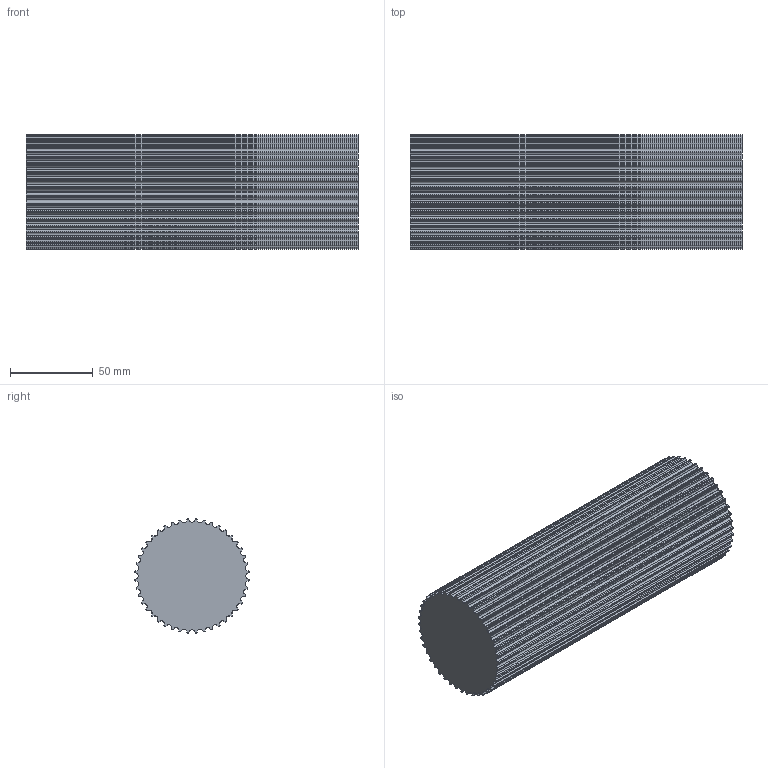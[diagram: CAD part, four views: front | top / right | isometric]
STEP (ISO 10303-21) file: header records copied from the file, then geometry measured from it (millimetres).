
FILE_DESCRIPTION( ( 'STEP AP214' ), '1' );
FILE_NAME( 'C:/Users/StangenbergN/Documents/CAD_Step/1/17294400.stp', '2019-08-23T07:23:54', ( '' ), ( '' ), ' ', 'PARTsolutions', ' ' );
FILE_SCHEMA( ( 'AUTOMOTIVE_DESIGN { 1 0 10303 214 1 1 1 1 }' ) );
Length unit declared in the file: millimetre
Products named in the file (1): _17294400
Bounding box: 200 x 68.73 x 68.73 mm (x, y, z)
Volume: 694368.5 mm3; surface area: 67305.5 mm2
Topology: 1 solids, 1 shells, 354 faces, 1056 edges, 704 vertices
Faces by surface type: cylinder 220, plane 134
Entity records: 14928 total; most frequent: DIRECTION 2206, CARTESIAN_POINT 2115, ORIENTED_EDGE 2112, EDGE_CURVE 1056, AXIS2_PLACEMENT_3D 795, VERTEX_POINT 704, LINE 616, VECTOR 616
